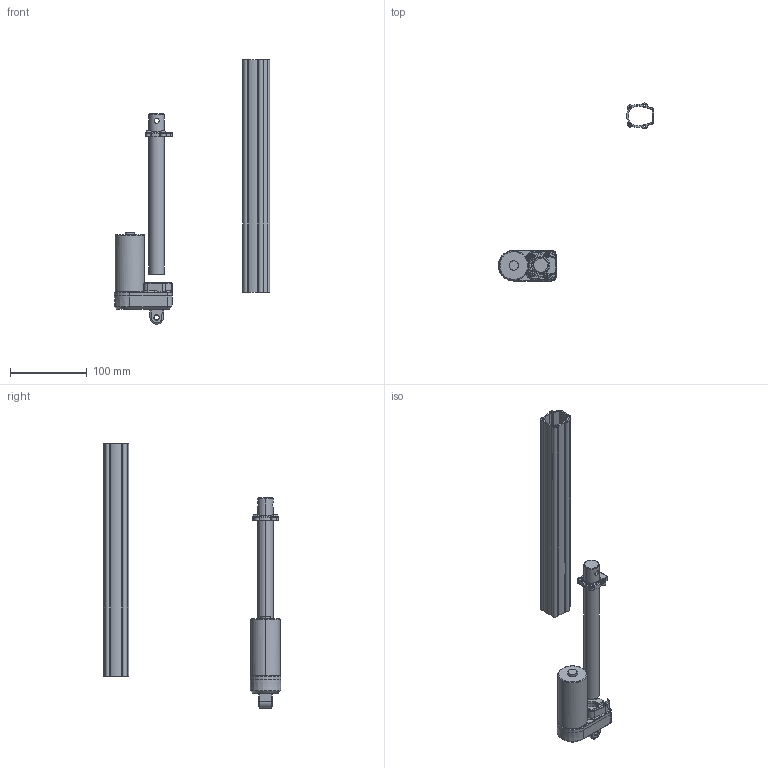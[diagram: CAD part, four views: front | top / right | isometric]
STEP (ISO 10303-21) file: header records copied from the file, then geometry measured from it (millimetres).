
FILE_DESCRIPTION(/* description */ ('Alibre Inc.'),/* implementation_level */ '2;1');
FILE_NAME(/* name */ 'export0',/* time_stamp */ '2008-04-02T09:49:56+02:00',/* author */ (''),/* organization */ (''),/* preprocessor_version */ 'ST-DEVELOPER v10',/* originating_system */ 'Alibre',/* authorisation */ '');
FILE_SCHEMA (('ALIBRE_SCHEMA','CONFIG_CONTROL_DESIGN'));
Length unit declared in the file: centimetre
Products named in the file (4): ID_1; ID_2; ID_3
Bounding box: 201.76 x 230.84 x 343.81 mm (x, y, z)
Volume: 252090 mm3; surface area: 128630.7 mm2
Topology: 3 solids, 3 shells, 638 faces, 1641 edges, 1013 vertices
Faces by surface type: cylinder 206, plane 181, torus 123, cone 102, bspline 24, sphere 2
Entity records: 44374 total; most frequent: CARTESIAN_POINT 11809, DIRECTION 6338, ORIENTED_EDGE 6276, EDGE_CURVE 3138, AXIS2_PLACEMENT_3D 2877, VERTEX_POINT 1938, CIRCLE 1640, EDGE_LOOP 1308
